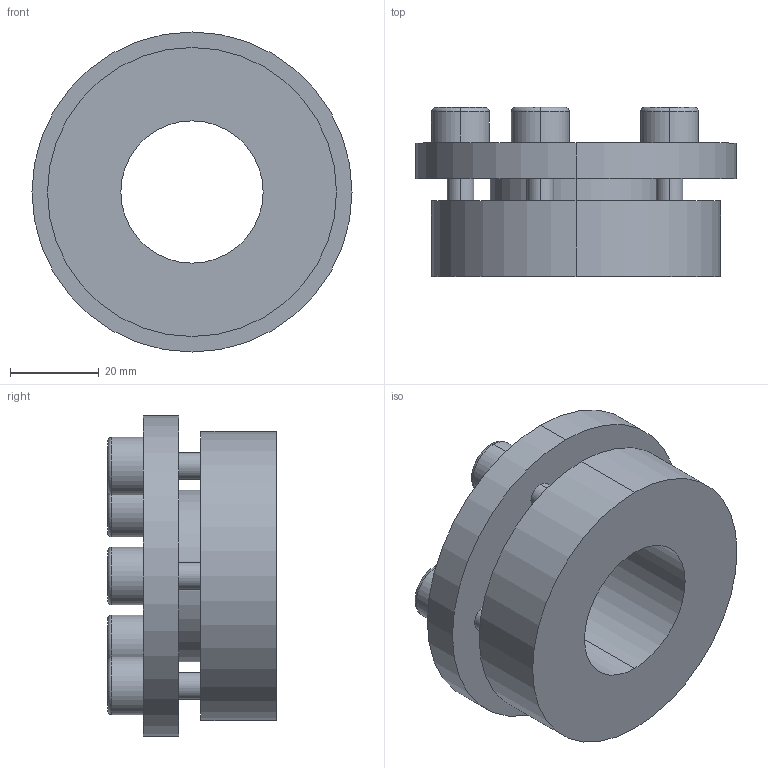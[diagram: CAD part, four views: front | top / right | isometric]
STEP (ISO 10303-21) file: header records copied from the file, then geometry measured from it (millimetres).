
FILE_DESCRIPTION (( 'STEP AP203' ), '1' );
FILE_NAME ('PL-H4 32-65.STEP', '2021-10-23T01:19:53', ( '' ), ( '' ), 'SwSTEP 2.0', 'SolidWorks 2018', '' );
FILE_SCHEMA (( 'CONFIG_CONTROL_DESIGN' ));
Length unit declared in the file: millimetre
Products named in the file (1): PL-H4 32-65
Bounding box: 72 x 38 x 72 mm (x, y, z)
Volume: 76057.2 mm3; surface area: 21881.9 mm2
Topology: 1 solids, 1 shells, 82 faces, 194 edges, 126 vertices
Faces by surface type: plane 44, cylinder 28, torus 10
Entity records: 2475 total; most frequent: DIRECTION 436, CARTESIAN_POINT 403, ORIENTED_EDGE 388, EDGE_CURVE 194, AXIS2_PLACEMENT_3D 159, VERTEX_POINT 126, VECTOR 118, LINE 118
